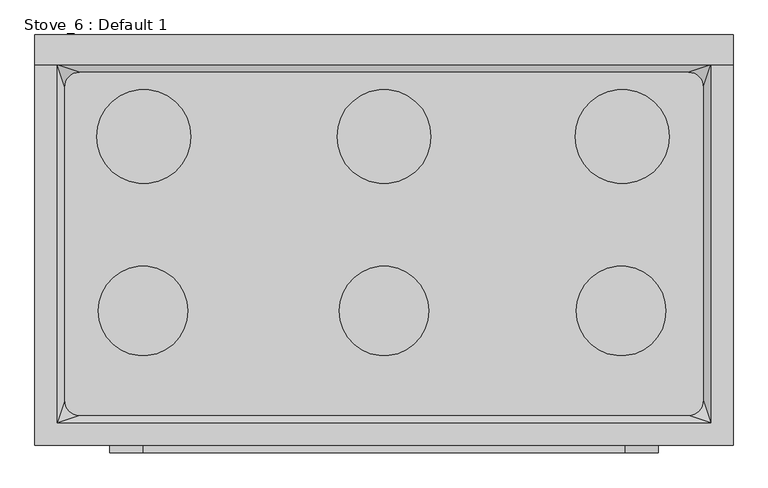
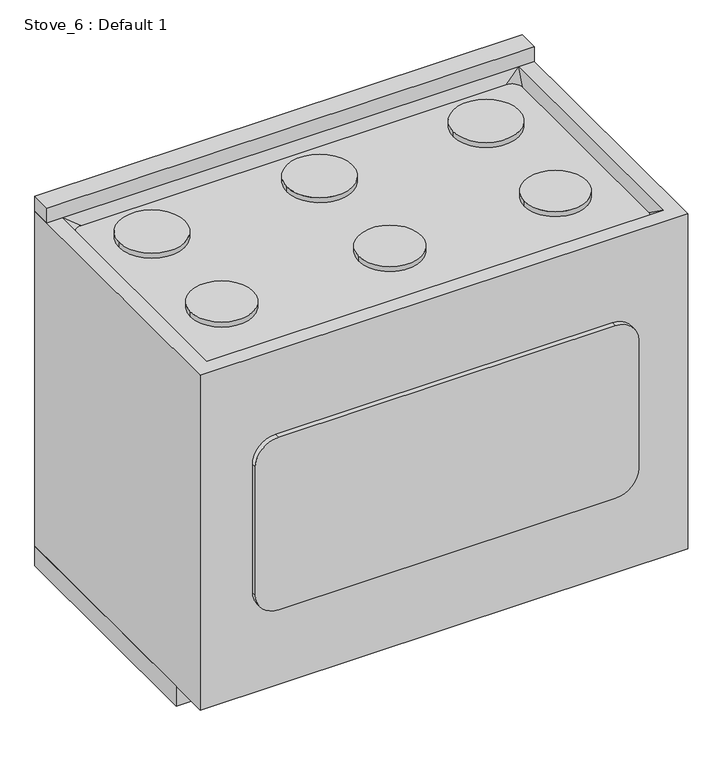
"""IFC4 building model written with IfcOpenShell, lengths in millimetres: proxy geometry, Stove_6 : Default 1."""

from ifc_helpers import new_model, si_unit, point, frame, frame_2d, origin, origin_with_axes, place, context, project, spatial, polyline, circle_curve, trimmed, segment, composite_curve, outline, extrude, source, transform, mapped, element, save
from ifc_brep_helpers import plane_surface, spline_surface, advanced_brep


def stove_6_default_1_31393170(model_context):
    return source(origin(), model_context, "Body", "SolidModel", [
        extrude(outline(composite_curve([segment(trimmed(circle_curve(frame_2d((547.1749684, -469.9)), 76.2), [point((470.9749684, -469.9))], [point((623.3749684, -469.9))], False, "CARTESIAN"), True, "CONTINUOUS"), segment(trimmed(circle_curve(frame_2d((547.1749684, -469.9)), 76.2), [point((623.3749684, -469.9))], [point((470.9749684, -469.9))], False, "CARTESIAN"), True, "CONTINUOUS")], self_intersect=False)), frame((0.0, 0.0, 889.0), z_axis=(0.0, 0.0, 1.0), x_axis=(1.0, 0.0, 0.0)), (0.0, 0.0, 1.0), 12.7),
        extrude(outline(composite_curve([segment(trimmed(circle_curve(frame_2d((143.4124842, -469.9)), 76.2), [point((67.2124842, -469.9))], [point((219.6124842, -469.9))], False, "CARTESIAN"), True, "CONTINUOUS"), segment(trimmed(circle_curve(frame_2d((143.4124842, -469.9)), 76.2), [point((219.6124842, -469.9))], [point((67.2124842, -469.9))], False, "CARTESIAN"), True, "CONTINUOUS")], self_intersect=False)), frame((0.0, 0.0, 889.0), z_axis=(0.0, 0.0, 1.0), x_axis=(1.0, 0.0, 0.0)), (0.0, 0.0, 1.0), 12.7),
        extrude(outline(composite_curve([segment(trimmed(circle_curve(frame_2d((-266.7, -469.9)), 76.2), [point((-342.9, -469.9))], [point((-190.5, -469.9))], False, "CARTESIAN"), True, "CONTINUOUS"), segment(trimmed(circle_curve(frame_2d((-266.7, -469.9)), 76.2), [point((-190.5, -469.9))], [point((-342.9, -469.9))], False, "CARTESIAN"), True, "CONTINUOUS")], self_intersect=False)), frame((0.0, 0.0, 889.0), z_axis=(0.0, 0.0, 1.0), x_axis=(1.0, 0.0, 0.0)), (0.0, 0.0, 1.0), 12.7),
        extrude(outline(composite_curve([segment(trimmed(circle_curve(frame_2d((549.2458018, -173.078716)), 80.0), [point((469.2458018, -173.078716))], [point((629.2458018, -173.078716))], False, "CARTESIAN"), True, "CONTINUOUS"), segment(trimmed(circle_curve(frame_2d((549.2458018, -173.078716)), 80.0), [point((629.2458018, -173.078716))], [point((469.2458018, -173.078716))], False, "CARTESIAN"), True, "CONTINUOUS")], self_intersect=False)), frame((0.0, 0.0, 889.0), z_axis=(0.0, 0.0, 1.0), x_axis=(1.0, 0.0, 0.0)), (0.0, 0.0, 1.0), 12.7),
        extrude(outline(composite_curve([segment(trimmed(circle_curve(frame_2d((143.4124842, -173.078716)), 80.0), [point((63.4124842, -173.078716))], [point((223.4124842, -173.078716))], False, "CARTESIAN"), True, "CONTINUOUS"), segment(trimmed(circle_curve(frame_2d((143.4124842, -173.078716)), 80.0), [point((223.4124842, -173.078716))], [point((63.4124842, -173.078716))], False, "CARTESIAN"), True, "CONTINUOUS")], self_intersect=False)), frame((0.0, 0.0, 889.0), z_axis=(0.0, 0.0, 1.0), x_axis=(1.0, 0.0, 0.0)), (0.0, 0.0, 1.0), 12.7),
        extrude(outline(composite_curve([segment(trimmed(circle_curve(frame_2d((-265.6125, -173.078716)), 80.0), [point((-345.6125, -173.078716))], [point((-185.6125, -173.078716))], False, "CARTESIAN"), True, "CONTINUOUS"), segment(trimmed(circle_curve(frame_2d((-265.6125, -173.078716)), 80.0), [point((-185.6125, -173.078716))], [point((-345.6125, -173.078716))], False, "CARTESIAN"), True, "CONTINUOUS")], self_intersect=False)), frame((0.0, 0.0, 889.0), z_axis=(0.0, 0.0, 1.0), x_axis=(1.0, 0.0, 0.0)), (0.0, 0.0, 1.0), 12.7),
        extrude(outline(composite_curve([segment(polyline([(698.5, 553.5249684), (698.5, -266.7)]), True, "CONTINUOUS"), segment(trimmed(circle_curve(frame_2d((641.35, -266.7)), 57.15), [point((698.5, -266.7))], [point((641.35, -323.85))], False, "CARTESIAN"), True, "CONTINUOUS"), segment(polyline([(641.35, -323.85), (311.15, -323.85)]), True, "CONTINUOUS"), segment(trimmed(circle_curve(frame_2d((311.15, -266.7)), 57.15), [point((311.15, -323.85))], [point((254.0, -266.7))], False, "CARTESIAN"), True, "CONTINUOUS"), segment(polyline([(254.0, -266.7), (254.0, 553.5249684)]), True, "CONTINUOUS"), segment(trimmed(circle_curve(frame_2d((311.15, 553.5249684)), 57.15), [point((254.0, 553.5249684))], [point((311.15, 610.6749684))], False, "CARTESIAN"), True, "CONTINUOUS"), segment(polyline([(311.15, 610.6749684), (641.35, 610.6749684)]), True, "CONTINUOUS"), segment(trimmed(circle_curve(frame_2d((641.35, 553.5249684)), 57.15), [point((641.35, 610.6749684))], [point((698.5, 553.5249684))], False, "CARTESIAN"), True, "CONTINUOUS")], self_intersect=False)), frame((0.0, -711.2, 0.0), z_axis=(0.0, 1.0, 0.0), x_axis=(0.0, 0.0, 1.0)), (0.0, 0.0, 1.0), 12.7),
        extrude(outline(polyline([(737.6749684, 0.0), (737.6749684, -596.9), (-450.85, -596.9), (-450.85, 0.0), (737.6749684, 0.0)])), origin_with_axes(), (0.0, 0.0, 1.0), 50.8),
        advanced_brep(
        [(737.6749684, 0.0, 914.4), (-450.85, 0.0, 914.4), (-450.85, -698.5, 914.4), (737.6749684, -698.5, 914.4), (-412.75, -660.4, 914.4), (-412.75, -50.8, 914.4), (699.5749684, -50.8, 914.4), (699.5749684, -660.4, 914.4), (737.6749684, 0.0, 50.8), (737.6749684, -698.5, 50.8), (-450.85, -698.5, 50.8), (-450.85, 0.0, 50.8), (-374.65, -63.5, 889.0), (-400.05, -88.9, 889.0), (-400.05, -622.3, 889.0), (-374.65, -647.7, 889.0), (661.4749684, -647.7, 889.0), (686.8749684, -622.3, 889.0), (686.8749684, -88.9, 889.0), (661.4749684, -63.5, 889.0)],
        [
            (0, 1),
            (1, 2),
            (2, 3),
            (3, 0),
            (4, 5),
            (5, 6),
            (6, 7),
            (7, 4),
            (8, 9),
            (9, 10),
            (10, 11),
            (11, 8),
            (0, 8),
            (11, 1),
            (10, 2),
            (9, 3),
            (12, 13, circle_curve(frame((-374.65, -88.9, 889.0), z_axis=(0.0, 0.0, 1.0), x_axis=(1.0, 0.0, 0.0)), 25.4)),
            (13, 14),
            (14, 15, circle_curve(frame((-374.65, -622.3, 889.0), z_axis=(0.0, 0.0, 1.0), x_axis=(1.0, 0.0, 0.0)), 25.4)),
            (15, 16),
            (16, 17, circle_curve(frame((661.4749684, -622.3, 889.0), z_axis=(0.0, 0.0, 1.0), x_axis=(1.0, 0.0, 0.0)), 25.4)),
            (17, 18),
            (18, 19, circle_curve(frame((661.4749684, -88.9, 889.0), z_axis=(0.0, 0.0, 1.0), x_axis=(1.0, 0.0, 0.0)), 25.4)),
            (19, 12),
            (12, 5),
            (5, 13),
            (4, 14),
            (4, 15),
            (7, 16),
            (7, 17),
            (6, 18),
            (6, 19),
        ],
        [
            plane_surface(frame((-450.85, 0.0, 914.4), z_axis=(0.0, 0.0, 1.0), x_axis=(-1.0, 0.0, 0.0))),
            plane_surface(frame((-450.85, 0.0, 50.8), z_axis=(0.0, 0.0, -1.0), x_axis=(1.0, 0.0, 0.0))),
            plane_surface(frame((737.6749684, 0.0, 914.4), z_axis=(0.0, 1.0, 0.0), x_axis=(0.0, 0.0, -1.0))),
            plane_surface(frame((-450.85, 0.0, 914.4), z_axis=(-1.0, 0.0, 0.0), x_axis=(0.0, 0.0, -1.0))),
            plane_surface(frame((-450.85, -698.5, 914.4), z_axis=(0.0, -1.0, 0.0), x_axis=(0.0, 0.0, -1.0))),
            plane_surface(frame((737.6749684, -698.5, 914.4), z_axis=(1.0, 0.0, 0.0), x_axis=(0.0, 0.0, -1.0))),
            plane_surface(frame((143.4124842, -355.6, 889.0), z_axis=(0.0, 0.0, 1.0), x_axis=(-1.0, 0.0, 0.0))),
            spline_surface(1, 2, [[(-374.65, -63.5, 889.0), (-400.04999999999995, -63.50000000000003, 889.0), (-400.05, -88.9, 889.0)], [(-412.75, -50.8, 914.4), (-412.75, -50.8, 914.4), (-412.75, -50.8, 914.4)]], [2, 2], [3, 3], [0.0, 1.0], [0.0, 1.0], weights=[[1.0, 0.7071067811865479, 1.0], [1.0, 0.7071067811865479, 1.0]]),
            plane_surface(frame((-400.05, -355.6, 889.0), z_axis=(0.8944271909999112, 0.0, 0.44721359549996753), x_axis=(0.0, -1.0, 0.0))),
            spline_surface(1, 2, [[(-400.05, -622.3, 889.0), (-400.04999999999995, -647.7, 889.0), (-374.65, -647.7, 889.0)], [(-412.75, -660.4, 914.4), (-412.75, -660.4, 914.4), (-412.75, -660.4, 914.4)]], [2, 2], [3, 3], [0.0, 1.0], [0.0, 1.0], weights=[[1.0, 0.7071067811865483, 1.0], [1.0, 0.7071067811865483, 1.0]]),
            plane_surface(frame((143.4124842, -647.7, 889.0), z_axis=(0.0, 0.8944271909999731, 0.44721359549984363), x_axis=(1.0, 0.0, 0.0))),
            spline_surface(1, 2, [[(661.4749684, -647.7, 889.0), (686.8749684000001, -647.7000000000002, 889.0), (686.8749684, -622.3, 889.0)], [(699.5749684, -660.4, 914.4), (699.5749684, -660.4, 914.4), (699.5749684, -660.4, 914.4)]], [2, 2], [3, 3], [0.0, 1.0], [0.0, 1.0], weights=[[1.0, 0.7071067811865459, 1.0], [1.0, 0.7071067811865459, 1.0]]),
            plane_surface(frame((686.8749684, -355.6, 889.0), z_axis=(-0.894427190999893, 0.0, 0.4472135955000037), x_axis=(0.0, 1.0, 0.0))),
            spline_surface(1, 2, [[(686.8749684, -88.9, 889.0), (686.8749684, -63.50000000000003, 889.0), (661.4749684, -63.5, 889.0)], [(699.5749684, -50.8, 914.4), (699.5749684, -50.8, 914.4), (699.5749684, -50.8, 914.4)]], [2, 2], [3, 3], [0.0, 1.0], [0.0, 1.0], weights=[[1.0, 0.7071067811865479, 1.0], [1.0, 0.7071067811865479, 1.0]]),
            plane_surface(frame((143.4124842, -63.5, 889.0), z_axis=(0.0, -0.8944271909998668, 0.4472135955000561), x_axis=(-1.0, 0.0, 0.0))),
        ],
        [
            (0, [[1, 2, 3, 4], [5, 6, 7, 8]]),
            (1, [[9, 10, 11, 12]]),
            (2, [[-1, 13, -12, 14]]),
            (3, [[-2, -14, -11, 15]]),
            (4, [[-3, -15, -10, 16]]),
            (5, [[-4, -16, -9, -13]]),
            (6, [[17, 18, 19, 20, 21, 22, 23, 24]]),
            (7, [[-17, 25, 26]]),
            (8, [[-18, -26, -5, 27]]),
            (9, [[-19, -27, 28]]),
            (10, [[-20, -28, -8, 29]]),
            (11, [[-21, -29, 30]]),
            (12, [[-22, -30, -7, 31]]),
            (13, [[-23, -31, 32]]),
            (14, [[-24, -32, -6, -25]]),
        ],
    ),
        extrude(outline(polyline([(737.6749684, 0.0), (737.6749684, -50.8), (-450.85, -50.8), (-450.85, 0.0), (737.6749684, 0.0)])), frame((0.0, 0.0, 914.4), z_axis=(0.0, 0.0, 1.0), x_axis=(1.0, 0.0, 0.0)), (0.0, 0.0, 1.0), 38.1),
    ])


if __name__ == "__main__":
    model = new_model("IFC4")
    model_context = context("Model", 3, world=origin())
    ifc_project = project(units=[si_unit("LENGTHUNIT", "METRE", prefix="MILLI")], contexts=[model_context])
    site = spatial("IfcSite", under=ifc_project)
    building = spatial("IfcBuilding", under=site)
    placement = place(None, origin())
    stove_6_default_1_shape = stove_6_default_1_31393170(model_context)
    element("IfcBuildingElementProxy", 1, Name="Stove_6 : Default 1", ObjectType="Stove_6 : Default 1", at=placement, inside=building, context=model_context, shape_type="MappedRepresentation", body=[
        mapped(stove_6_default_1_shape, transform((0.0, 0.0, 0.0), x_axis=(1.0, 0.0, 0.0), y_axis=(0.0, 1.0, 0.0), z_axis=(0.0, 0.0, 1.0))),
    ])
    save(model, "model.ifc")
